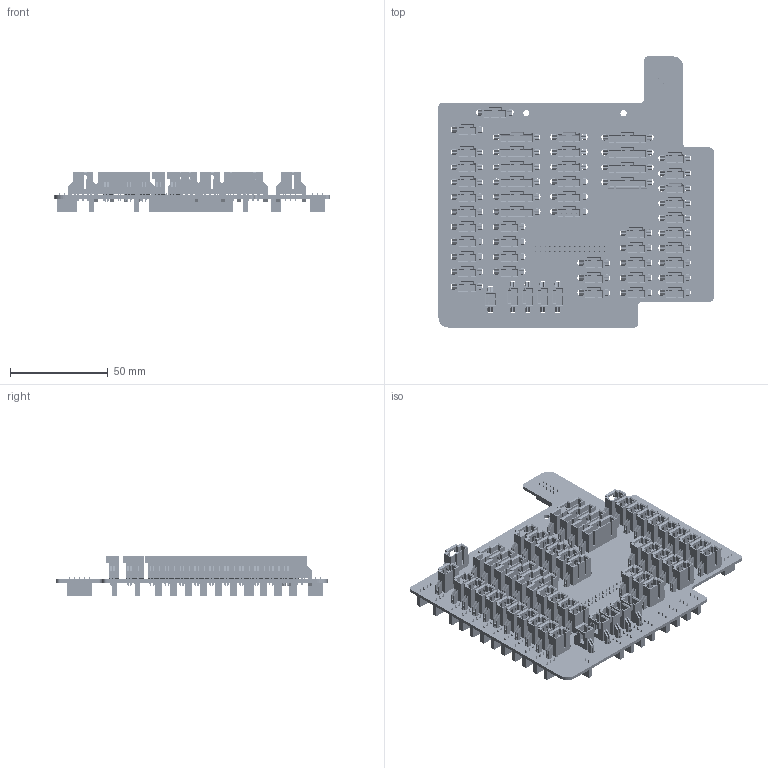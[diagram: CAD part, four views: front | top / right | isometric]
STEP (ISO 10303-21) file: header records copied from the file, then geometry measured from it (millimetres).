
FILE_DESCRIPTION(('KiCad electronic assembly'),'2;1');
FILE_NAME('RRIB2.step','2022-10-01T14:09:07',('Pcbnew'),('Kicad'), 'Open CASCADE STEP processor 7.5','KiCad to STEP converter','Unknown' );
FILE_SCHEMA(('AUTOMOTIVE_DESIGN { 1 0 10303 214 1 1 1 1 }'));
Length unit declared in the file: millimetre
Products named in the file (22): RRIB2 1; 705410003; COMPOUND; 705410002; 705410006; 705410001; 705410005; PinSocket_1x03_P2.54mm_Vertical; SOLID; PinSocket_2x17_P2.54mm_Vertical; PinSocket_1x04_P2.54mm_Vertical; PinSocket_1x02_P2.54mm_Vertical; PinSocket_2x05_P2.54mm_Vertical; _autosave-RRIB2 PCB
Assembly tree (99 placements, depth 3):
  RRIB2 1
    705410003  x7
      COMPOUND
    705410002  x37
      COMPOUND
    705410006  x4
      COMPOUND
    705410001
      COMPOUND
    705410005  x6
      COMPOUND
    PinSocket_1x03_P2.54mm_Vertical  x29
      SOLID
    PinSocket_2x17_P2.54mm_Vertical
      SOLID
    PinSocket_1x04_P2.54mm_Vertical
      SOLID
    PinSocket_1x02_P2.54mm_Vertical
      SOLID
    PinSocket_2x05_P2.54mm_Vertical
      SOLID
    _autosave-RRIB2 PCB
Bounding box: 140.46 x 138.43 x 20.85 mm (x, y, z)
Volume: 56115.1 mm3; surface area: 100505.6 mm2
Topology: 89 solids, 89 shells, 13287 faces, 36116 edges, 24348 vertices
Faces by surface type: bspline 12811, cylinder 464, plane 12
Full cylindrical faces by diameter (mm): 1 x137, 1.092 x205, 3.2 x2, 3.404 x110
Entity records: 191219 total; most frequent: CARTESIAN_POINT 64962, B_SPLINE_CURVE_WITH_KNOTS 19142, ORIENTED_EDGE 15696, PCURVE 15696, DEFINITIONAL_REPRESENTATION 15696, EDGE_CURVE 7848, SURFACE_CURVE 7394, DIRECTION 5418
